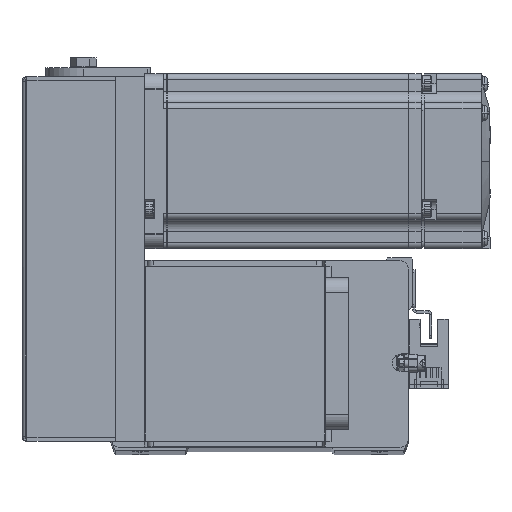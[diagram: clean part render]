
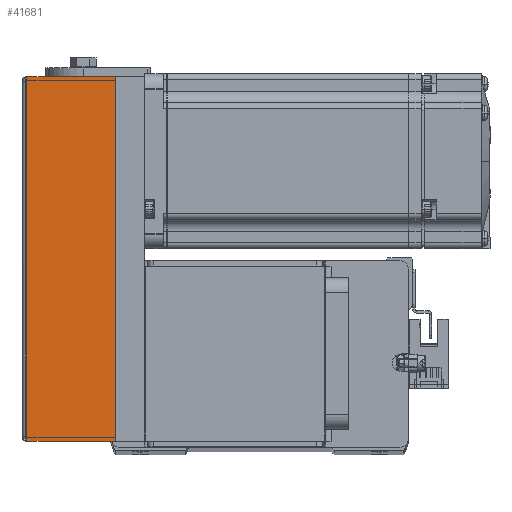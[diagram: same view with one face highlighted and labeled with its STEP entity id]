
A CAD part, top view. The second image highlights one B-rep face of the part: STEP entity #41681.
In plain terms, the highlighted planar face has unit normal (0, 0, 1).
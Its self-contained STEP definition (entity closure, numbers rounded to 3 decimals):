
#203 = CARTESIAN_POINT ( 'NONE',  ( -62.5, -30.3, 31. ) ) ;
#2220 = DIRECTION ( 'NONE',  ( 0., 1., 0. ) ) ;
#2468 = CARTESIAN_POINT ( 'NONE',  ( 62.5, -30.3, 31. ) ) ;
#2600 = VERTEX_POINT ( 'NONE', #203 ) ;
#3852 = EDGE_CURVE ( 'NONE', #2600, #19516, #39146, .T. ) ;
#3952 = CARTESIAN_POINT ( 'NONE',  ( 62.5, -30.3, 31. ) ) ;
#5614 = PLANE ( 'NONE',  #28387 ) ;
#9068 = EDGE_CURVE ( 'NONE', #10859, #21745, #40103, .T. ) ;
#9516 = DIRECTION ( 'NONE',  ( 0., -1., 0. ) ) ;
#9743 = FACE_OUTER_BOUND ( 'NONE', #33039, .T. ) ;
#9993 = CARTESIAN_POINT ( 'NONE',  ( 0., -30.8, 31. ) ) ;
#10022 = VECTOR ( 'NONE', #43074, 1000. ) ;
#10859 = VERTEX_POINT ( 'NONE', #3952 ) ;
#12734 = VECTOR ( 'NONE', #27443, 1000. ) ;
#13527 = ORIENTED_EDGE ( 'NONE', *, *, #35677, .F. ) ;
#19516 = VERTEX_POINT ( 'NONE', #44550 ) ;
#21745 = VERTEX_POINT ( 'NONE', #27722 ) ;
#23757 = LINE ( 'NONE', #46064, #12734 ) ;
#23777 = ORIENTED_EDGE ( 'NONE', *, *, #3852, .F. ) ;
#24200 = CARTESIAN_POINT ( 'NONE',  ( -62.5, -30.3, 31. ) ) ;
#24840 = LINE ( 'NONE', #47625, #31907 ) ;
#25991 = ORIENTED_EDGE ( 'NONE', *, *, #39749, .T. ) ;
#27443 = DIRECTION ( 'NONE',  ( -1., 0., 0. ) ) ;
#27722 = CARTESIAN_POINT ( 'NONE',  ( 62.5, 0., 31. ) ) ;
#28084 = VECTOR ( 'NONE', #2220, 1000. ) ;
#28387 = AXIS2_PLACEMENT_3D ( 'NONE', #9993, #43058, #9516 ) ;
#28598 = ORIENTED_EDGE ( 'NONE', *, *, #9068, .T. ) ;
#31907 = VECTOR ( 'NONE', #40018, 1000. ) ;
#33039 = EDGE_LOOP ( 'NONE', ( #13527, #28598, #25991, #23777 ) ) ;
#35677 = EDGE_CURVE ( 'NONE', #10859, #2600, #24840, .T. ) ;
#39146 = LINE ( 'NONE', #24200, #28084 ) ;
#39749 = EDGE_CURVE ( 'NONE', #21745, #19516, #23757, .T. ) ;
#40018 = DIRECTION ( 'NONE',  ( -1., 0., 0. ) ) ;
#40103 = LINE ( 'NONE', #2468, #10022 ) ;
#41681 = ADVANCED_FACE ( 'NONE', ( #9743 ), #5614, .F. ) ;
#43058 = DIRECTION ( 'NONE',  ( 0., 0., -1. ) ) ;
#43074 = DIRECTION ( 'NONE',  ( 0., 1., 0. ) ) ;
#44550 = CARTESIAN_POINT ( 'NONE',  ( -62.5, 0., 31. ) ) ;
#46064 = CARTESIAN_POINT ( 'NONE',  ( 0., 0., 31. ) ) ;
#47625 = CARTESIAN_POINT ( 'NONE',  ( -62.5, -30.3, 31. ) ) ;
